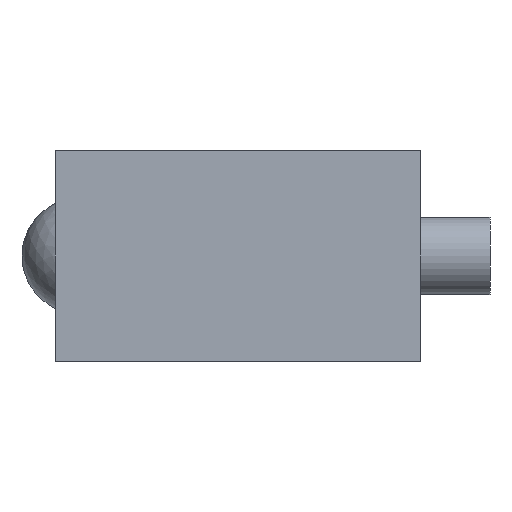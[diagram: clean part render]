
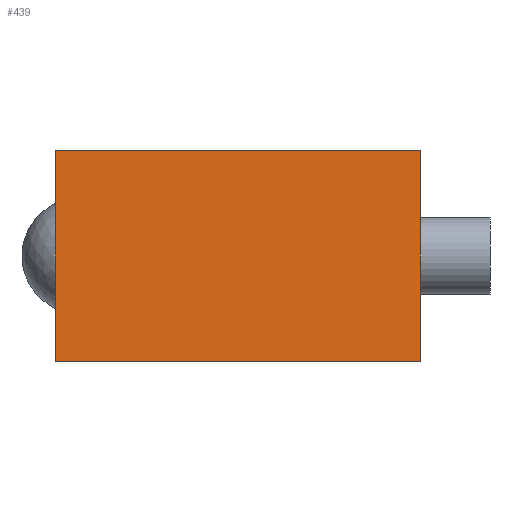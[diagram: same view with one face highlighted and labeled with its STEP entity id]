
A CAD part, left-side view. The second image highlights one B-rep face of the part: STEP entity #439.
In plain terms, the highlighted planar face has unit normal (-1, 0, 0).
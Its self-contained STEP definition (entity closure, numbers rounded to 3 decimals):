
#21=LINE('',#730,#37);
#27=LINE('',#745,#43);
#31=LINE('',#757,#47);
#33=LINE('',#760,#49);
#37=VECTOR('',#618,10.);
#43=VECTOR('',#628,10.);
#47=VECTOR('',#644,10.);
#49=VECTOR('',#648,10.);
#83=PLANE('',#517);
#114=FACE_OUTER_BOUND('',#166,.T.);
#166=EDGE_LOOP('',(#348,#349,#350,#351));
#220=VERTEX_POINT('',#728);
#221=VERTEX_POINT('',#729);
#227=VERTEX_POINT('',#742);
#228=VERTEX_POINT('',#744);
#257=EDGE_CURVE('',#220,#221,#21,.T.);
#264=EDGE_CURVE('',#227,#228,#27,.T.);
#270=EDGE_CURVE('',#228,#220,#31,.T.);
#272=EDGE_CURVE('',#221,#227,#33,.T.);
#348=ORIENTED_EDGE('',*,*,#264,.F.);
#349=ORIENTED_EDGE('',*,*,#272,.F.);
#350=ORIENTED_EDGE('',*,*,#257,.F.);
#351=ORIENTED_EDGE('',*,*,#270,.F.);
#439=ADVANCED_FACE('',(#114),#83,.T.);
#517=AXIS2_PLACEMENT_3D('',#759,#646,#647);
#618=DIRECTION('',(0.,0.,1.));
#628=DIRECTION('',(0.,0.,-1.));
#644=DIRECTION('',(0.,1.,0.));
#646=DIRECTION('center_axis',(-1.,0.,0.));
#647=DIRECTION('ref_axis',(0.,-1.,0.));
#648=DIRECTION('',(0.,-1.,0.));
#728=CARTESIAN_POINT('',(-270.,18.9,-10.9));
#729=CARTESIAN_POINT('',(-270.,18.9,10.9));
#730=CARTESIAN_POINT('',(-270.,18.9,0.));
#742=CARTESIAN_POINT('',(-270.,-18.9,10.9));
#744=CARTESIAN_POINT('',(-270.,-18.9,-10.9));
#745=CARTESIAN_POINT('',(-270.,-18.9,0.));
#757=CARTESIAN_POINT('',(-270.,18.9,-10.9));
#759=CARTESIAN_POINT('Origin',(-270.,18.9,0.));
#760=CARTESIAN_POINT('',(-270.,18.9,10.9));
